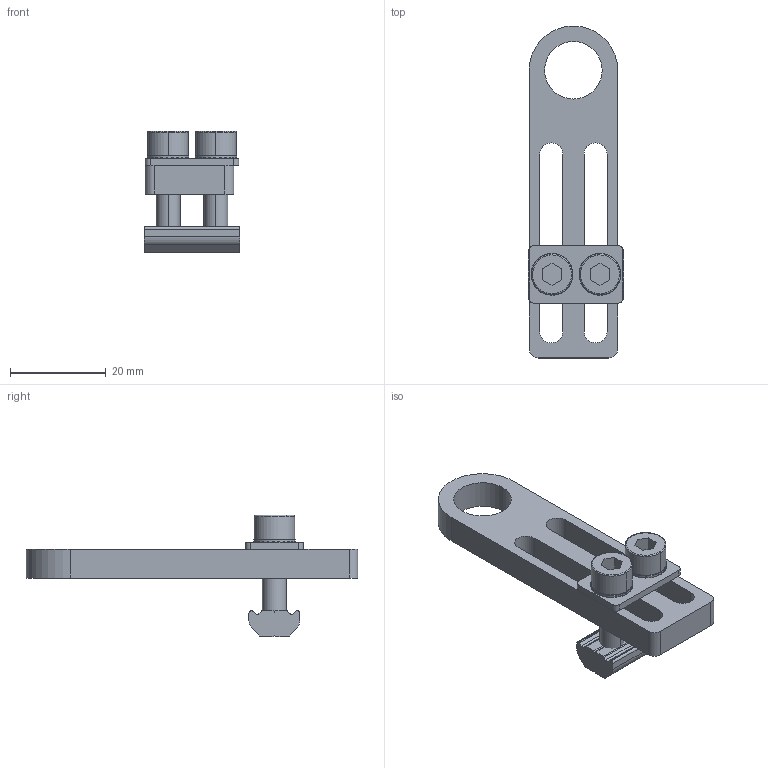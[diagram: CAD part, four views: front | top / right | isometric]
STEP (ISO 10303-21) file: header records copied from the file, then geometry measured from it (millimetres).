
FILE_DESCRIPTION (( 'STEP AP214' ), '1' );
FILE_NAME ('SMBE5-M1440.STEP', '2019-11-06T01:31:36', ( '微软用户' ), ( '微软中国' ), 'SwSTEP 2.0', 'SolidWorks 2016', '' );
FILE_SCHEMA (( 'AUTOMOTIVE_DESIGN' ));
Length unit declared in the file: millimetre
Products named in the file (1): SMBE5-M1440
Bounding box: 20 x 69.23 x 25.33 mm (x, y, z)
Volume: 6828.4 mm3; surface area: 6494.2 mm2
Topology: 7 solids, 7 shells, 511 faces, 1482 edges, 981 vertices
Faces by surface type: plane 447, cylinder 56, cone 4, bspline 4
Entity records: 23016 total; most frequent: CARTESIAN_POINT 3437, ORIENTED_EDGE 2964, DIRECTION 2937, EDGE_CURVE 1482, AXIS2_PLACEMENT_3D 987, VERTEX_POINT 981, VECTOR 963, LINE 963
